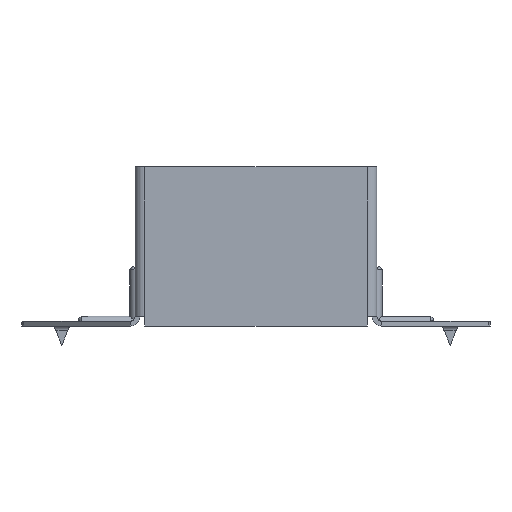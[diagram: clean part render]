
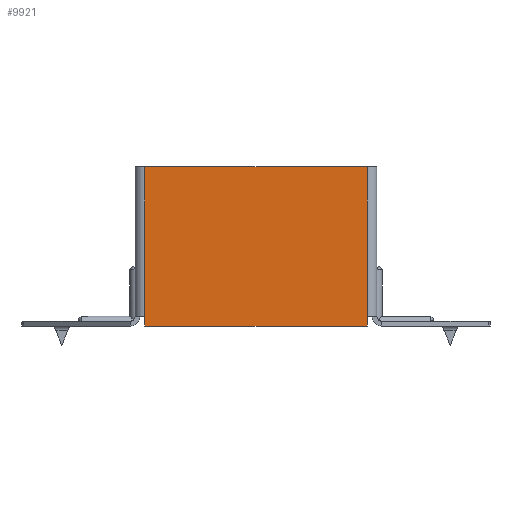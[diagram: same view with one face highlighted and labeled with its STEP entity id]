
A CAD part, front view. The second image highlights one B-rep face of the part: STEP entity #9921.
In plain terms, the highlighted planar face has unit normal (0, -1, 0).
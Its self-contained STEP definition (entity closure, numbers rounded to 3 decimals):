
#1240 = ORIENTED_EDGE ( 'NONE', *, *, #6858, .T. ) ;
#1332 = LINE ( 'NONE', #6695, #1786 ) ;
#1421 = VERTEX_POINT ( 'NONE', #7484 ) ;
#1629 = DIRECTION ( 'NONE',  ( 0., 0., 1. ) ) ;
#1658 = EDGE_CURVE ( 'NONE', #4857, #13292, #1332, .T. ) ;
#1786 = VECTOR ( 'NONE', #3638, 1000. ) ;
#3068 = CARTESIAN_POINT ( 'NONE',  ( 0., 0., 0. ) ) ;
#3638 = DIRECTION ( 'NONE',  ( 0., 0., -1. ) ) ;
#4857 = VERTEX_POINT ( 'NONE', #9165 ) ;
#5461 = EDGE_LOOP ( 'NONE', ( #1240, #12735, #8301, #12101, #10659, #16581 ) ) ;
#5488 = AXIS2_PLACEMENT_3D ( 'NONE', #3068, #10434, #1629 ) ;
#5673 = EDGE_CURVE ( 'NONE', #17230, #10237, #8473, .T. ) ;
#6279 = CARTESIAN_POINT ( 'NONE',  ( -35., 0., -70. ) ) ;
#6569 = CARTESIAN_POINT ( 'NONE',  ( 35., 0., -70. ) ) ;
#6695 = CARTESIAN_POINT ( 'NONE',  ( -35., 0., 0. ) ) ;
#6858 = EDGE_CURVE ( 'NONE', #16197, #1421, #8670, .T. ) ;
#7317 = CARTESIAN_POINT ( 'NONE',  ( 0., 0., -20. ) ) ;
#7388 = PLANE ( 'NONE',  #5488 ) ;
#7484 = CARTESIAN_POINT ( 'NONE',  ( -35., 0., -20. ) ) ;
#7986 = VECTOR ( 'NONE', #18055, 1000. ) ;
#8200 = VECTOR ( 'NONE', #11676, 1000. ) ;
#8301 = ORIENTED_EDGE ( 'NONE', *, *, #1658, .T. ) ;
#8473 = LINE ( 'NONE', #17791, #16302 ) ;
#8670 = LINE ( 'NONE', #7317, #8200 ) ;
#8817 = VECTOR ( 'NONE', #13832, 1000. ) ;
#8973 = DIRECTION ( 'NONE',  ( 0., 0., -1. ) ) ;
#9165 = CARTESIAN_POINT ( 'NONE',  ( -35., 0., -67. ) ) ;
#9687 = LINE ( 'NONE', #14527, #13689 ) ;
#9921 = ADVANCED_FACE ( 'NONE', ( #13747 ), #7388, .F. ) ;
#10237 = VERTEX_POINT ( 'NONE', #16882 ) ;
#10434 = DIRECTION ( 'NONE',  ( 0., 1., 0. ) ) ;
#10659 = ORIENTED_EDGE ( 'NONE', *, *, #5673, .T. ) ;
#10968 = EDGE_CURVE ( 'NONE', #10237, #16197, #15076, .T. ) ;
#11676 = DIRECTION ( 'NONE',  ( -1., 0., 0. ) ) ;
#11829 = LINE ( 'NONE', #15308, #7986 ) ;
#12101 = ORIENTED_EDGE ( 'NONE', *, *, #17973, .F. ) ;
#12112 = CARTESIAN_POINT ( 'NONE',  ( 35., 0., -70. ) ) ;
#12735 = ORIENTED_EDGE ( 'NONE', *, *, #13705, .T. ) ;
#13292 = VERTEX_POINT ( 'NONE', #6279 ) ;
#13408 = CARTESIAN_POINT ( 'NONE',  ( 35., 0., -20. ) ) ;
#13689 = VECTOR ( 'NONE', #8973, 1000. ) ;
#13705 = EDGE_CURVE ( 'NONE', #1421, #4857, #9687, .T. ) ;
#13747 = FACE_OUTER_BOUND ( 'NONE', #5461, .T. ) ;
#13832 = DIRECTION ( 'NONE',  ( 0., 0., 1. ) ) ;
#14527 = CARTESIAN_POINT ( 'NONE',  ( -35., 0., 0. ) ) ;
#15076 = LINE ( 'NONE', #6569, #8817 ) ;
#15308 = CARTESIAN_POINT ( 'NONE',  ( -36.5, 0., -70. ) ) ;
#16197 = VERTEX_POINT ( 'NONE', #13408 ) ;
#16302 = VECTOR ( 'NONE', #17905, 1000. ) ;
#16581 = ORIENTED_EDGE ( 'NONE', *, *, #10968, .T. ) ;
#16882 = CARTESIAN_POINT ( 'NONE',  ( 35., 0., -67. ) ) ;
#17230 = VERTEX_POINT ( 'NONE', #12112 ) ;
#17791 = CARTESIAN_POINT ( 'NONE',  ( 35., 0., -70. ) ) ;
#17905 = DIRECTION ( 'NONE',  ( 0., 0., 1. ) ) ;
#17973 = EDGE_CURVE ( 'NONE', #17230, #13292, #11829, .T. ) ;
#18055 = DIRECTION ( 'NONE',  ( -1., 0., 0. ) ) ;
